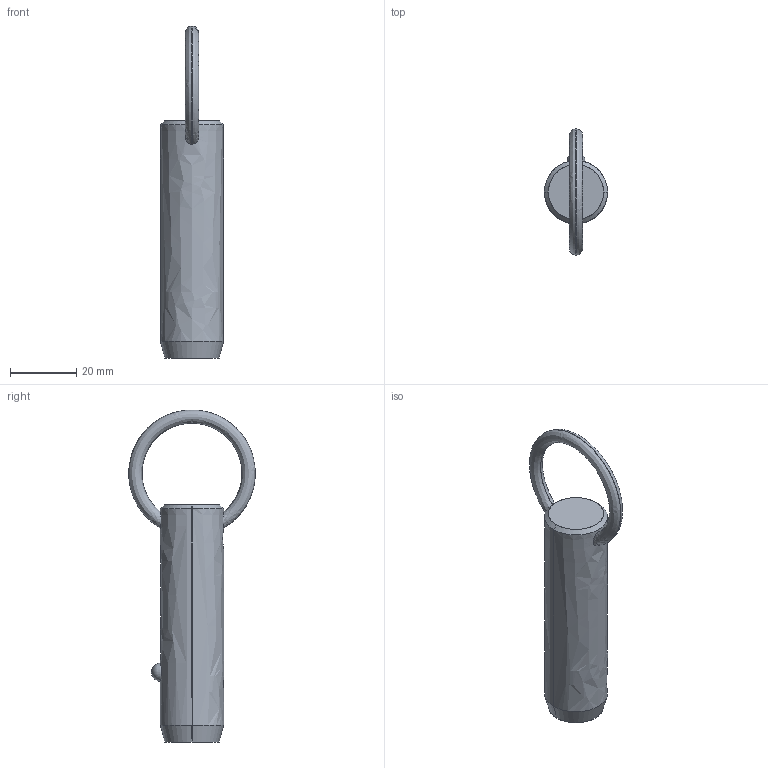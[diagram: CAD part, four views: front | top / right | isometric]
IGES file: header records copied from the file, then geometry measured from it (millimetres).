
Start section: SolidWorks IGES file using analytic representation for surfaces
Global section: file name: C:\Users\liam_\OneDrive\Documents\WORK\Work for WixRoyd\Job Files\J-00019 - Matt Davis CAD Checking\04. CAD Drawings\automotion20190605\P1250.2_v2\P1250.2_v2_20190729_IGES\P1250.075-150.igs; native system: SolidWorks 2017; preprocessor: SolidWorks 2017; author: liam_; date: 190729.234749; units: millimetre
Bounding box: 19 x 38.05 x 99.88 mm (x, y, z)
Surface area: 5788.7 mm2 (no closed solid volume)
Topology: 0 solids, 0 shells, 12 faces, 294 edges, 292 vertices
Faces by surface type: revolution 8, bspline 4
